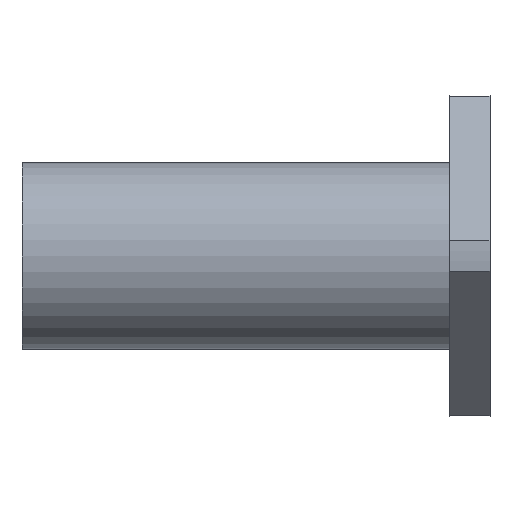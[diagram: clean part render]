
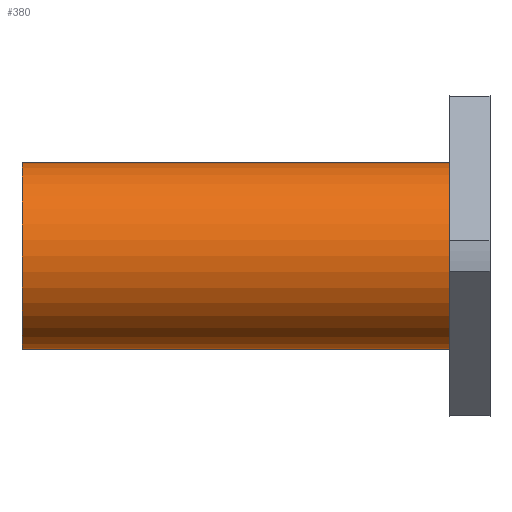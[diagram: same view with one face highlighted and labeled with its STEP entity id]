
A CAD part, front view. The second image highlights one B-rep face of the part: STEP entity #380.
In plain terms, the highlighted cylindrical face has radius 14 mm (diameter 28 mm), a full revolution.
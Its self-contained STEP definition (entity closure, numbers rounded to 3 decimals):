
#83=ORIENTED_EDGE('',*,*,#171,.T.);
#84=ORIENTED_EDGE('',*,*,#172,.F.);
#171=EDGE_CURVE('',#215,#215,#245,.T.);
#172=EDGE_CURVE('',#216,#216,#246,.T.);
#215=VERTEX_POINT('',#638);
#216=VERTEX_POINT('',#640);
#245=CIRCLE('',#433,14.);
#246=CIRCLE('',#434,14.);
#270=EDGE_LOOP('',(#83));
#271=EDGE_LOOP('',(#84));
#320=FACE_BOUND('',#270,.T.);
#321=FACE_BOUND('',#271,.T.);
#362=CYLINDRICAL_SURFACE('',#432,14.);
#380=ADVANCED_FACE('',(#320,#321),#362,.T.);
#432=AXIS2_PLACEMENT_3D('',#636,#514,#515);
#433=AXIS2_PLACEMENT_3D('',#637,#516,#517);
#434=AXIS2_PLACEMENT_3D('',#639,#518,#519);
#514=DIRECTION('',(-1.,0.,0.));
#515=DIRECTION('',(0.,0.,1.));
#516=DIRECTION('',(1.,0.,0.));
#517=DIRECTION('',(0.,0.,-1.));
#518=DIRECTION('',(1.,0.,0.));
#519=DIRECTION('',(0.,0.,-1.));
#636=CARTESIAN_POINT('',(35.,0.,0.));
#637=CARTESIAN_POINT('',(-35.,0.,0.));
#638=CARTESIAN_POINT('',(-35.,0.,-14.));
#639=CARTESIAN_POINT('',(29.,0.,0.));
#640=CARTESIAN_POINT('',(29.,0.,-14.));
